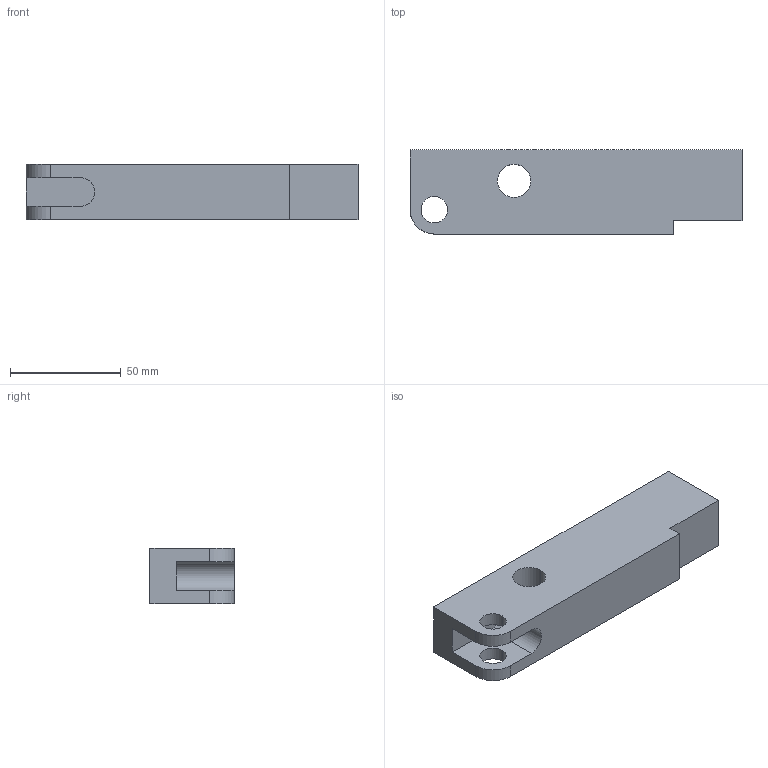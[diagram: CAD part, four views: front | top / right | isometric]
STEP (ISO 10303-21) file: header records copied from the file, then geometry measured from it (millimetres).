
FILE_DESCRIPTION (( 'STEP AP203' ), '1' );
FILE_NAME ('4193 752.STEP', '2017-11-29T09:49:26', ( '' ), ( '' ), 'SwSTEP 2.0', 'SolidWorks 2015', '' );
FILE_SCHEMA (( 'CONFIG_CONTROL_DESIGN' ));
Length unit declared in the file: millimetre
Products named in the file (1): 4193 752
Bounding box: 150 x 38 x 25 mm (x, y, z)
Volume: 121756.8 mm3; surface area: 22559.1 mm2
Topology: 1 solids, 1 shells, 20 faces, 54 edges, 36 vertices
Faces by surface type: plane 11, cylinder 9
Entity records: 725 total; most frequent: DIRECTION 114, CARTESIAN_POINT 111, ORIENTED_EDGE 108, EDGE_CURVE 54, AXIS2_PLACEMENT_3D 39, VECTOR 36, LINE 36, VERTEX_POINT 36
